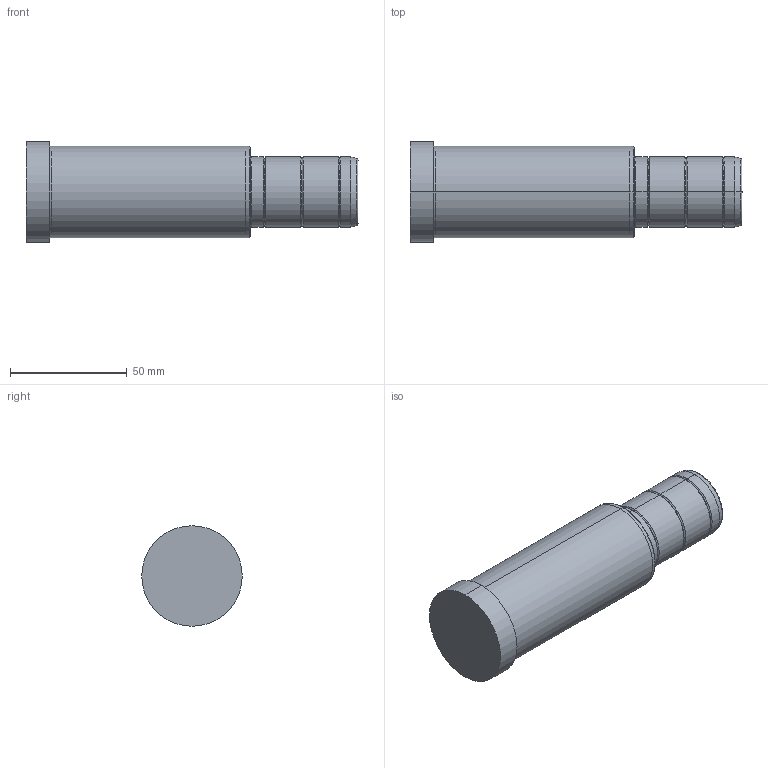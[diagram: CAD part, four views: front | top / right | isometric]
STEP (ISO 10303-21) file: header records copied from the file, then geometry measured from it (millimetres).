
FILE_DESCRIPTION( ( 'STEP AP203' ), '1' );
FILE_NAME( 'C:/Projects/D02 - 30x96x46.step', '2002-12-31T22:40:41', ( ' ' ), ( ' ' ), 'XStep 1.0', ' ', ' ' );
FILE_SCHEMA( ( 'CONFIG_CONTROL_DESIGN' ) );
Length unit declared in the file: metre
Products named in the file (1): 1
Bounding box: 142 x 43 x 43 mm (x, y, z)
Volume: 149632.9 mm3; surface area: 19138.9 mm2
Topology: 1 solids, 1 shells, 42 faces, 82 edges, 46 vertices
Faces by surface type: bspline 22, revolution 20
Entity records: 1325 total; most frequent: CARTESIAN_POINT 517, ORIENTED_EDGE 164, DIRECTION 134, EDGE_CURVE 82, AXIS2_PLACEMENT_3D 47, EDGE_LOOP 46, VERTEX_POINT 46, CIRCLE 46
